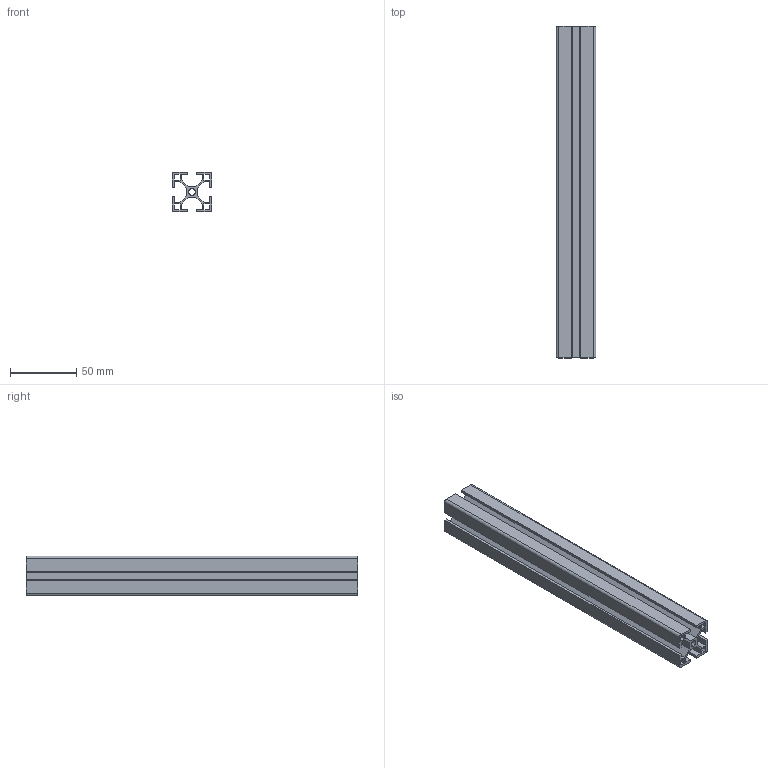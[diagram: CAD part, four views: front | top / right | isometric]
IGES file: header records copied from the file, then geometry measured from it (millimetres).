
Start section: SolidWorks IGES file using analytic representation for surfaces
Global section: file name: C:\Users\aldo\Documents\Simphoni Smart Farming\Desain Alat\Aluminium Profile 3030 30x30 cm\Aluminium Profile 3030 30x30 mm.IGS; native system: SolidWorks 2013; preprocessor: SolidWorks 2013; author: aldo; date: 230903.154950; units: millimetre
Bounding box: 30 x 250 x 30 mm (x, y, z)
Surface area: 84884.8 mm2 (no closed solid volume)
Topology: 0 solids, 0 shells, 72 faces, 592 edges, 592 vertices
Faces by surface type: bspline 62, revolution 10
